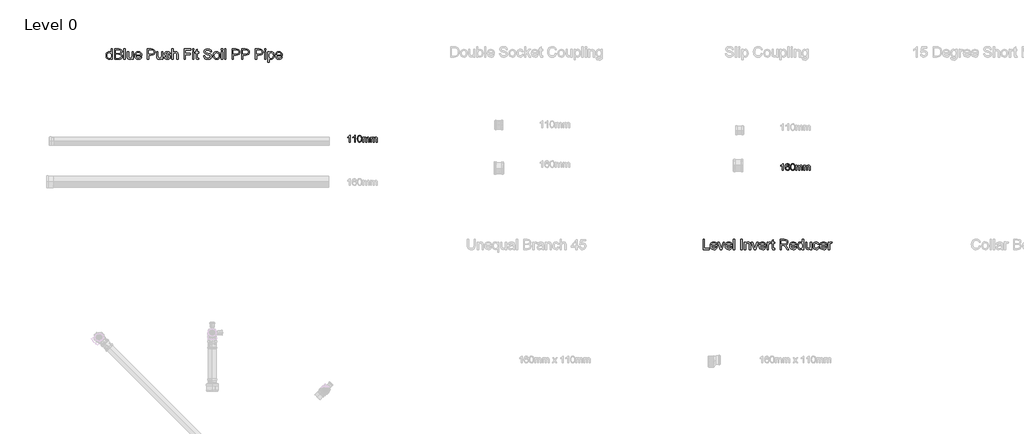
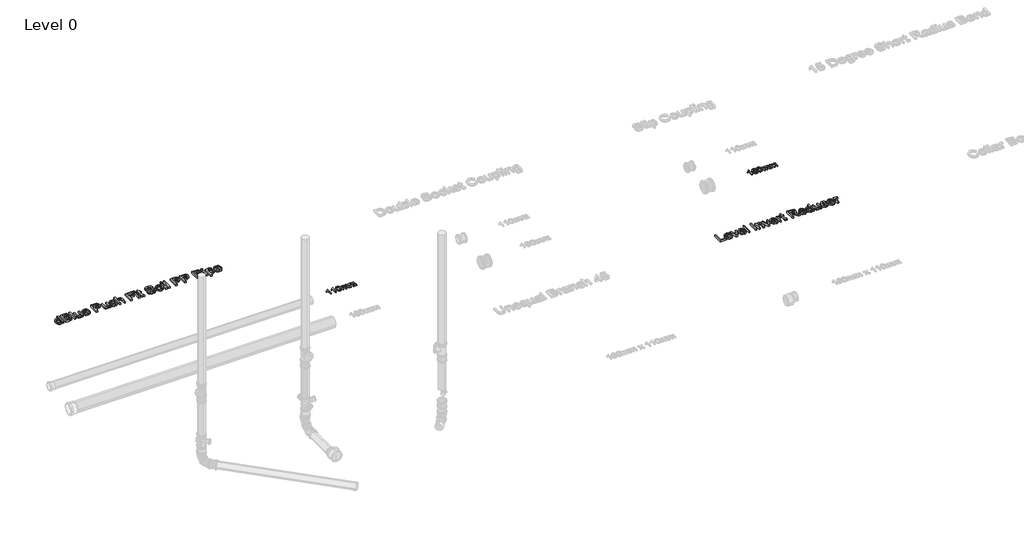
# One storey, part 5 of 15: 4 proxies.
"""IFC4 building model written with IfcOpenShell, lengths in millimetres."""

import ifcopenshell
import ifcopenshell.guid

model = None  # the IFC model being written
_history = None  # IfcOwnerHistory: only IFC2X3 demands one
_inside = {}  # id of a spatial element -> (the spatial element, [elements in it])
_under = {}  # id of a project, library or spatial element -> (it, [spatial elements below it])
_declared = {}  # id of a project -> (the project, [libraries it declares])
_typed = {}  # id of a type object -> (the type object, [elements of that type])
_made_of = {}  # id of a material, layer set ... -> (it, [elements and type objects made of it])


def new_model(schema):
    """Start an empty IFC model of exactly this schema.

    Asked for "IFC4X3", IfcOpenShell would pick the latest addendum, in which some entities
    have other attributes; the version numbers below select the first issue.
    IFC2X3 requires an IfcOwnerHistory on every rooted entity: one is made here for all.
    """
    global model, _history
    if schema == "IFC4X3":
        model = ifcopenshell.file(schema_version=(4, 3, 0, 0))
    else:
        model = ifcopenshell.file(schema=schema)
    _inside.clear()
    _under.clear()
    _declared.clear()
    _typed.clear()
    _made_of.clear()
    _history = None
    if model.schema == "IFC2X3":
        org = make("IfcOrganization", Name="unknown")
        user = make(
            "IfcPersonAndOrganization",
            ThePerson=make("IfcPerson", FamilyName="unknown"),
            TheOrganization=org,
        )
        app = make(
            "IfcApplication",
            ApplicationDeveloper=org,
            Version="unknown",
            ApplicationFullName="unknown",
            ApplicationIdentifier="unknown",
        )
        _history = make(
            "IfcOwnerHistory",
            OwningUser=user,
            OwningApplication=app,
            ChangeAction="ADDED",
            CreationDate=0,
        )
    return model


def make(cls, **values):
    """One entity of the class cls with the attributes given. An attribute that is None is left unset."""
    return model.create_entity(
        cls, **{name: value for name, value in values.items() if value is not None}
    )


def rooted(cls, **values):
    """An entity with a GlobalId (a new one), such as an element, a storey or a relation."""
    return make(cls, GlobalId=ifcopenshell.guid.new(), OwnerHistory=_history, **values)


def si_unit(unit_type, name, prefix=None):
    """IfcSIUnit, for example si_unit("LENGTHUNIT", "METRE", prefix="MILLI")."""
    return make("IfcSIUnit", UnitType=unit_type, Prefix=prefix, Name=name)


def assignment(units):
    """IfcUnitAssignment: the units of a project."""
    return None if units is None else make("IfcUnitAssignment", Units=units)


def point(xyz):
    """IfcCartesianPoint."""
    return None if xyz is None else make("IfcCartesianPoint", Coordinates=xyz)


def direction(xyz):
    """IfcDirection."""
    return None if xyz is None else make("IfcDirection", DirectionRatios=xyz)


def frame(location, z_axis=None, x_axis=None):
    """IfcAxis2Placement3D, a coordinate frame: its origin and axes. An axis left out is left unset."""
    return make(
        "IfcAxis2Placement3D",
        Location=point(location),
        Axis=direction(z_axis),
        RefDirection=direction(x_axis),
    )


def origin():
    """The frame at (0, 0, 0) with its axes left unset."""
    return frame((0.0, 0.0, 0.0))


def origin_with_axes():
    """The frame at (0, 0, 0) with the z axis (0, 0, 1) and the x axis (1, 0, 0) written out."""
    return frame((0.0, 0.0, 0.0), z_axis=(0.0, 0.0, 1.0), x_axis=(1.0, 0.0, 0.0))


def place(relative_to, where):
    """IfcLocalPlacement: puts the frame where relative to a parent placement (None: the world)."""
    return make(
        "IfcLocalPlacement", PlacementRelTo=relative_to, RelativePlacement=where
    )


def context(
    kind, dimensions, precision=None, world=None, true_north=None, identifier=None
):
    """IfcGeometricRepresentationContext, for example the 3D "Model" context."""
    return make(
        "IfcGeometricRepresentationContext",
        ContextIdentifier=identifier,
        ContextType=kind,
        CoordinateSpaceDimension=dimensions,
        Precision=precision,
        WorldCoordinateSystem=world,
        TrueNorth=true_north,
    )


def project(units=None, contexts=None):
    """IfcProject with its units and contexts."""
    return rooted(
        "IfcProject",
        Name="project",
        RepresentationContexts=contexts,
        UnitsInContext=assignment(units),
    )


def spatial(cls, under=None, at=None, **own):
    """A site, building, storey or space (cls), placed at a placement, below another one or the project."""
    s = rooted(cls, ObjectPlacement=at, **own)
    if under is not None:
        _under.setdefault(under.id(), (under, []))[1].append(s)
    return s


def polyline(points):
    """IfcPolyline through the points."""
    return make("IfcPolyline", Points=[point(p) for p in points])


def outline(outer, holes=None, kind="AREA"):
    """IfcArbitraryClosedProfileDef: a profile drawn as a closed curve; with holes, ...WithVoids."""
    if holes is None:
        return make("IfcArbitraryClosedProfileDef", ProfileType=kind, OuterCurve=outer)
    return make(
        "IfcArbitraryProfileDefWithVoids",
        ProfileType=kind,
        OuterCurve=outer,
        InnerCurves=holes,
    )


def extrude(swept, where, along, depth):
    """IfcExtrudedAreaSolid: the profile swept, set in the frame where, extruded along a direction by depth."""
    return make(
        "IfcExtrudedAreaSolid",
        SweptArea=swept,
        Position=where,
        ExtrudedDirection=direction(along),
        Depth=depth,
    )


def shape(context_of_items, identifier, shape_type, items):
    """IfcShapeRepresentation: the items that make up one representation, for example the "Body"."""
    return make(
        "IfcShapeRepresentation",
        ContextOfItems=context_of_items,
        RepresentationIdentifier=identifier,
        RepresentationType=shape_type,
        Items=items,
    )


def made_of(thing, what):
    """Note that an element or type object is made of a material, layer set ...; save() writes the relation."""
    if what is not None:
        _made_of.setdefault(what.id(), (what, []))[1].append(thing)
    return thing


def element(
    cls,
    number,
    at=None,
    inside=None,
    cuts=None,
    type_object=None,
    material=None,
    context=None,
    identifier="Body",
    shape_type=None,
    held_by="IfcProductDefinitionShape",
    body=None,
    shapes=None,
    **own,
):
    """One element of the class cls, such as IfcWall. Its Tag is "e" and its number.

    at: its placement. inside: the storey or other place that contains it. cuts: it is an
    opening in that element (IfcRelVoidsElement). A single representation is given by context,
    identifier, shape_type and body (its items); several are given by shapes. held_by: the class
    of the entity that holds the representations. save() writes the other relations.
    """
    e = rooted(cls, Tag="e%d" % number, ObjectPlacement=at, **own)
    if body is not None:
        shapes = [shape(context, identifier, shape_type, body)]
    if shapes is not None:
        e.Representation = make(held_by, Representations=shapes)
    if inside is not None:
        _inside.setdefault(inside.id(), (inside, []))[1].append(e)
    if cuts is not None:
        rooted(
            "IfcRelVoidsElement", RelatingBuildingElement=cuts, RelatedOpeningElement=e
        )
    if type_object is not None:
        _typed.setdefault(type_object.id(), (type_object, []))[1].append(e)
    return made_of(e, material)


def aggregate(whole, parts):
    """IfcRelAggregates: a whole, such as a stair, and the parts it consists of."""
    return rooted("IfcRelAggregates", RelatingObject=whole, RelatedObjects=parts)


def save(model, path):
    """Write the relations noted so far, then the file.

    IfcRelAggregates (storeys below a building ...), IfcRelContainedInSpatialStructure (elements
    in a storey), IfcRelDefinesByType, IfcRelAssociatesMaterial and IfcRelDeclares: one each for
    every whole, place, type object, material and project.
    """
    for whole, parts in _under.values():
        aggregate(whole, parts)
    for where, things in _inside.values():
        rooted(
            "IfcRelContainedInSpatialStructure",
            RelatedElements=things,
            RelatingStructure=where,
        )
    for kind, things in _typed.values():
        rooted("IfcRelDefinesByType", RelatedObjects=things, RelatingType=kind)
    for what, things in _made_of.values():
        rooted("IfcRelAssociatesMaterial", RelatedObjects=things, RelatingMaterial=what)
    for by, libraries in _declared.values():
        rooted("IfcRelDeclares", RelatingContext=by, RelatedDefinitions=libraries)
    model.write(path)


model = new_model("IFC4")

# Units and contexts
model_context = context("Model", 3, world=origin())
ifc_project = project(units=[si_unit("LENGTHUNIT", "METRE", prefix="MILLI")], contexts=[model_context])

# Site, building, storey
site = spatial("IfcSite", under=ifc_project)
building = spatial("IfcBuilding", under=site)
storey = spatial("IfcBuildingStorey", under=building, Name="Level 0", Elevation=0.0)

# Proxies
placement = place(None, origin())
element("IfcBuildingElementProxy", 1, Name="100mm Arial", ObjectType="100mm Arial", at=placement, inside=storey, context=model_context, shape_type="SweptSolid", body=[
    extrude(outline(polyline([(-23591.7293188, 8067.8368131), (-23604.0370111, 8067.8368131), (-23604.0370111, 8144.5675823), (-23615.6956649, 8136.2622939), (-23628.6523957, 8130.0483515), (-23628.6523957, 8141.6829669), (-23610.6115303, 8153.19739), (-23599.6620111, 8166.2983515), (-23591.7293188, 8166.2983515), (-23591.7293188, 8067.8368131)])), origin_with_axes(), (0.0, 0.0, 1.0), 15.0),
    extrude(outline(polyline([(-23516.3447034, 8067.8368131), (-23528.6523957, 8067.8368131), (-23528.6523957, 8144.5675823), (-23540.3110495, 8136.2622939), (-23553.2677803, 8130.0483515), (-23553.2677803, 8141.6829669), (-23535.2269149, 8153.19739), (-23524.2773957, 8166.2983515), (-23516.3447034, 8166.2983515), (-23516.3447034, 8067.8368131)])), origin_with_axes(), (0.0, 0.0, 1.0), 15.0),
    extrude(outline(polyline([(-23487.1139341, 8116.2743131), (-23483.4961457, 8144.60364), (-23472.7509534, 8160.9377746), (-23454.8062418, 8166.2983515), (-23440.4312418, 8163.1252746), (-23430.5033572, 8153.97864), (-23424.7341264, 8139.4113323), (-23422.4985495, 8116.2743131), (-23426.0802803, 8088.0651785), (-23436.7894149, 8071.6949862), (-23454.8062418, 8066.2983515), (-23467.5947034, 8068.6421015), (-23477.3062418, 8075.6733515), (-23484.6620111, 8092.3259958), (-23487.1139341, 8116.2743131)]), holes=[polyline([(-23474.8062418, 8116.2983515), (-23473.3639341, 8096.9383756), (-23469.0370111, 8085.7334477), (-23462.5947034, 8080.3878948), (-23454.8062418, 8078.6060439), (-23447.0177803, 8080.3939044), (-23440.5754726, 8085.7574862), (-23436.2485495, 8096.9684237), (-23434.8062418, 8116.2983515), (-23436.2004726, 8135.2226304), (-23440.3831649, 8146.5146977), (-23446.8134534, 8152.1216689), (-23454.9504726, 8153.9906592), (-23462.6547995, 8152.3440246), (-23468.8447034, 8147.4041208), (-23473.3158572, 8135.4089285), (-23474.8062418, 8116.2983515)])]), origin_with_axes(), (0.0, 0.0, 1.0), 15.0),
    extrude(outline(polyline([(-23408.6523957, 8067.8368131), (-23408.6523957, 8140.1445054), (-23396.3447034, 8140.1445054), (-23396.3447034, 8128.2454669), (-23387.8831649, 8137.9930631), (-23375.8398957, 8141.6829669), (-23363.5081649, 8137.9209477), (-23356.7293188, 8127.3800823), (-23347.1259534, 8138.1072458), (-23334.9985495, 8141.6829669), (-23325.7467466, 8140.1955871), (-23318.9047995, 8135.7334477), (-23314.6770351, 8128.1763564), (-23313.2677803, 8117.4041208), (-23313.2677803, 8067.8368131), (-23325.5754726, 8067.8368131), (-23325.5754726, 8112.1156592), (-23326.7172995, 8122.3921015), (-23330.8519149, 8127.4521977), (-23337.8831649, 8129.3752746), (-23349.9865303, 8124.44739), (-23354.8062418, 8108.6541208), (-23354.8062418, 8067.8368131), (-23367.1139341, 8067.8368131), (-23367.1139341, 8113.4858515), (-23369.9624918, 8125.4089285), (-23379.3014341, 8129.3752746), (-23388.4120111, 8126.7310439), (-23394.4697034, 8118.9906592), (-23396.3447034, 8104.3031592), (-23396.3447034, 8067.8368131), (-23408.6523957, 8067.8368131)])), origin_with_axes(), (0.0, 0.0, 1.0), 15.0),
    extrude(outline(polyline([(-23294.8062418, 8067.8368131), (-23294.8062418, 8140.1445054), (-23282.4985495, 8140.1445054), (-23282.4985495, 8128.2454669), (-23274.0370111, 8137.9930631), (-23261.9937418, 8141.6829669), (-23249.6620111, 8137.9209477), (-23242.8831649, 8127.3800823), (-23233.2797995, 8138.1072458), (-23221.1523957, 8141.6829669), (-23211.9005928, 8140.1955871), (-23205.0586457, 8135.7334477), (-23200.8308813, 8128.1763564), (-23199.4216264, 8117.4041208), (-23199.4216264, 8067.8368131), (-23211.7293188, 8067.8368131), (-23211.7293188, 8112.1156592), (-23212.8711457, 8122.3921015), (-23217.0057611, 8127.4521977), (-23224.0370111, 8129.3752746), (-23236.1403764, 8124.44739), (-23240.960088, 8108.6541208), (-23240.960088, 8067.8368131), (-23253.2677803, 8067.8368131), (-23253.2677803, 8113.4858515), (-23256.116338, 8125.4089285), (-23265.4552803, 8129.3752746), (-23274.5658572, 8126.7310439), (-23280.6235495, 8118.9906592), (-23282.4985495, 8104.3031592), (-23282.4985495, 8067.8368131), (-23294.8062418, 8067.8368131)])), origin_with_axes(), (0.0, 0.0, 1.0), 15.0),
])
element("IfcBuildingElementProxy", 2, Name="100mm Arial", ObjectType="100mm Arial", at=placement, inside=storey, context=model_context, shape_type="SweptSolid", body=[
    extrude(outline(polyline([(-17291.7293188, 7657.7167304), (-17304.0370111, 7657.7167304), (-17304.0370111, 7734.4474996), (-17315.6956649, 7726.1422111), (-17328.6523957, 7719.9282688), (-17328.6523957, 7731.5628842), (-17310.6115303, 7743.0773073), (-17299.6620111, 7756.1782688), (-17291.7293188, 7756.1782688), (-17291.7293188, 7657.7167304)])), origin_with_axes(), (0.0, 0.0, 1.0), 15.0),
    extrude(outline(polyline([(-17199.4216264, 7730.0244227), (-17211.7293188, 7728.4859611), (-17216.3927803, 7738.7503842), (-17228.7245111, 7743.8705765), (-17239.8302803, 7740.8898073), (-17248.2317226, 7729.6999035), (-17251.7293188, 7707.7648073), (-17240.8759534, 7717.5845188), (-17227.4264341, 7720.7936535), (-17216.0562418, 7718.6001438), (-17206.5129726, 7712.019615), (-17200.0406168, 7701.9655285), (-17197.8831649, 7689.3513458), (-17201.9456649, 7672.3681727), (-17213.1235495, 7660.3489419), (-17229.2533572, 7656.1782688), (-17243.2166986, 7658.9426919), (-17254.3374918, 7667.2359611), (-17261.6121313, 7681.8753842), (-17264.0370111, 7703.6782688), (-17261.3447034, 7728.19149), (-17253.2677803, 7744.9523073), (-17242.2401361, 7753.3717785), (-17227.9552803, 7756.1782688), (-17217.1560014, 7754.44149), (-17208.5081649, 7749.2311535), (-17202.4504726, 7740.9559131), (-17199.4216264, 7730.0244227)]), holes=[polyline([(-17251.7293188, 7689.5436535), (-17248.8807611, 7678.8825958), (-17241.3086457, 7671.1422111), (-17230.2148957, 7668.4859611), (-17222.0929005, 7669.8621631), (-17215.7076841, 7673.9907688), (-17211.5700639, 7680.4811535), (-17210.1908572, 7688.9426919), (-17211.5520351, 7697.0646871), (-17215.6355688, 7703.2575958), (-17230.7197034, 7708.4859611), (-17245.6115303, 7703.2575958), (-17250.1998716, 7697.2149275), (-17251.7293188, 7689.5436535)])]), origin_with_axes(), (0.0, 0.0, 1.0), 15.0),
    extrude(outline(polyline([(-17187.1139341, 7706.1542304), (-17183.4961457, 7734.4835573), (-17172.7509534, 7750.8176919), (-17154.8062418, 7756.1782688), (-17140.4312418, 7753.0051919), (-17130.5033572, 7743.8585573), (-17124.7341264, 7729.2912496), (-17122.4985495, 7706.1542304), (-17126.0802803, 7677.9450958), (-17136.7894149, 7661.5749035), (-17154.8062418, 7656.1782688), (-17167.5947034, 7658.5220188), (-17177.3062418, 7665.5532688), (-17184.6620111, 7682.2059131), (-17187.1139341, 7706.1542304)]), holes=[polyline([(-17174.8062418, 7706.1782688), (-17173.3639341, 7686.8182929), (-17169.0370111, 7675.613365), (-17162.5947034, 7670.2678121), (-17154.8062418, 7668.4859611), (-17147.0177803, 7670.2738217), (-17140.5754726, 7675.6374035), (-17136.2485495, 7686.848341), (-17134.8062418, 7706.1782688), (-17136.2004726, 7725.1025477), (-17140.3831649, 7736.394615), (-17146.8134534, 7742.0015861), (-17154.9504726, 7743.8705765), (-17162.6547995, 7742.2239419), (-17168.8447034, 7737.2840381), (-17173.3158572, 7725.2888458), (-17174.8062418, 7706.1782688)])]), origin_with_axes(), (0.0, 0.0, 1.0), 15.0),
    extrude(outline(polyline([(-17108.6523957, 7657.7167304), (-17108.6523957, 7730.0244227), (-17096.3447034, 7730.0244227), (-17096.3447034, 7718.1253842), (-17087.8831649, 7727.8729804), (-17075.8398957, 7731.5628842), (-17063.5081649, 7727.800865), (-17056.7293188, 7717.2599996), (-17047.1259534, 7727.9871631), (-17034.9985495, 7731.5628842), (-17025.7467466, 7730.0755044), (-17018.9047995, 7725.613365), (-17014.6770351, 7718.0562736), (-17013.2677803, 7707.2840381), (-17013.2677803, 7657.7167304), (-17025.5754726, 7657.7167304), (-17025.5754726, 7701.9955765), (-17026.7172995, 7712.2720188), (-17030.8519149, 7717.332115), (-17037.8831649, 7719.2551919), (-17049.9865303, 7714.3273073), (-17054.8062418, 7698.5340381), (-17054.8062418, 7657.7167304), (-17067.1139341, 7657.7167304), (-17067.1139341, 7703.3657688), (-17069.9624918, 7715.2888458), (-17079.3014341, 7719.2551919), (-17088.4120111, 7716.6109611), (-17094.4697034, 7708.8705765), (-17096.3447034, 7694.1830765), (-17096.3447034, 7657.7167304), (-17108.6523957, 7657.7167304)])), origin_with_axes(), (0.0, 0.0, 1.0), 15.0),
    extrude(outline(polyline([(-16994.8062418, 7657.7167304), (-16994.8062418, 7730.0244227), (-16982.4985495, 7730.0244227), (-16982.4985495, 7718.1253842), (-16974.0370111, 7727.8729804), (-16961.9937418, 7731.5628842), (-16949.6620111, 7727.800865), (-16942.8831649, 7717.2599996), (-16933.2797995, 7727.9871631), (-16921.1523957, 7731.5628842), (-16911.9005928, 7730.0755044), (-16905.0586457, 7725.613365), (-16900.8308813, 7718.0562736), (-16899.4216264, 7707.2840381), (-16899.4216264, 7657.7167304), (-16911.7293188, 7657.7167304), (-16911.7293188, 7701.9955765), (-16912.8711457, 7712.2720188), (-16917.0057611, 7717.332115), (-16924.0370111, 7719.2551919), (-16936.1403764, 7714.3273073), (-16940.960088, 7698.5340381), (-16940.960088, 7657.7167304), (-16953.2677803, 7657.7167304), (-16953.2677803, 7703.3657688), (-16956.116338, 7715.2888458), (-16965.4552803, 7719.2551919), (-16974.5658572, 7716.6109611), (-16980.6235495, 7708.8705765), (-16982.4985495, 7694.1830765), (-16982.4985495, 7657.7167304), (-16994.8062418, 7657.7167304)])), origin_with_axes(), (0.0, 0.0, 1.0), 15.0),
])
element("IfcBuildingElementProxy", 3, Name="150mm Arial", ObjectType="150mm Arial", at=placement, inside=storey, context=model_context, shape_type="SweptSolid", body=[
    extrude(outline(polyline([(-27068.6641509, 9272.4182401), (-27068.6641509, 9290.1869405), (-27081.1261535, 9275.0945817), (-27098.3522279, 9270.0637954), (-27110.529122, 9271.8848113), (-27121.6759464, 9277.3478589), (-27131.1121196, 9286.0712607), (-27138.1570598, 9297.6733391), (-27142.5440526, 9311.6850446), (-27144.0063836, 9327.6373276), (-27138.6169123, 9357.6197102), (-27131.8846718, 9369.5114957), (-27122.4668927, 9378.2578902), (-27111.0763465, 9383.6381643), (-27098.4258043, 9385.4315891), (-27081.0617742, 9380.2996352), (-27068.6641509, 9366.9639129), (-27068.6641509, 9423.1027054), (-27049.8285928, 9423.1027054), (-27049.8285928, 9272.4182401), (-27068.6641509, 9272.4182401)]), holes=[polyline([(-27125.1708254, 9327.710904), (-27123.0463069, 9310.6733691), (-27116.6727513, 9298.5562559), (-27107.4113221, 9291.3135791), (-27096.6231826, 9288.8993535), (-27085.8396416, 9291.2032145), (-27076.8127371, 9298.1147975), (-27070.7012975, 9309.7628612), (-27068.6641509, 9326.2761642), (-27070.7380857, 9344.3299732), (-27076.9598899, 9356.847158), (-27086.2167206, 9364.1588127), (-27097.3957348, 9366.5960309), (-27108.2942389, 9364.2553817), (-27117.2245743, 9357.2334341), (-27123.1842626, 9345.1715032), (-27125.1708254, 9327.710904)])]), origin_with_axes(), (0.0, 0.0, 1.0), 25.0),
    extrude(outline(polyline([(-27019.2208108, 9272.4182401), (-27019.2208108, 9423.1027054), (-26961.7208549, 9423.1027054), (-26933.5594882, 9418.6697273), (-26924.0957239, 9413.0457313), (-26916.931222, 9405.0396994), (-26910.9163514, 9385.7626829), (-26915.9747288, 9368.1595294), (-26931.2602257, 9354.8238071), (-26920.5870494, 9349.2503948), (-26912.7005791, 9340.7707149), (-26907.8307412, 9329.9457871), (-26906.2074619, 9317.3366318), (-26910.6404399, 9297.0847279), (-26921.6217175, 9282.6637537), (-26938.0108604, 9275.0118082), (-26962.1623133, 9272.4182401), (-27019.2208108, 9272.4182401)]), holes=[polyline([(-27000.3852526, 9361.8871414), (-26965.9882861, 9361.8871414), (-26945.9019291, 9363.5058222), (-26933.8170056, 9370.477186), (-26929.7519096, 9382.7460505), (-26933.5410941, 9395.0333091), (-26944.393613, 9402.2989785), (-26968.6002483, 9404.2671472), (-27000.3852526, 9404.2671472), (-27000.3852526, 9361.8871414)]), polyline([(-27000.3852526, 9291.2537983), (-26961.7576431, 9291.2537983), (-26947.7781273, 9291.9895623), (-26935.9507212, 9296.0914465), (-26928.1148347, 9304.4607619), (-26925.04302, 9317.1526908), (-26928.6482636, 9331.7943942), (-26940.3285169, 9340.5315916), (-26963.5970531, 9343.0515832), (-27000.3852526, 9343.0515832), (-27000.3852526, 9291.2537983)])]), origin_with_axes(), (0.0, 0.0, 1.0), 25.0),
    extrude(outline(polyline([(-26882.6630142, 9272.4182401), (-26882.6630142, 9423.1027054), (-26863.827456, 9423.1027054), (-26863.827456, 9272.4182401), (-26882.6630142, 9272.4182401)])), origin_with_axes(), (0.0, 0.0, 1.0), 25.0),
    extrude(outline(polyline([(-26764.9407757, 9272.4182401), (-26764.9407757, 9291.4377393), (-26779.6928437, 9275.4072814), (-26798.9330721, 9270.0637954), (-26816.6465901, 9273.8161917), (-26828.8602724, 9283.2339708), (-26834.4704728, 9297.103122), (-26835.5741188, 9314.614305), (-26835.5741188, 9383.0771443), (-26816.7385606, 9383.0771443), (-26816.7385606, 9323.4802611), (-26815.5981265, 9304.2768209), (-26808.1485161, 9293.0012378), (-26794.1138179, 9288.8993535), (-26778.3868626, 9293.0932083), (-26767.9941963, 9304.5159442), (-26764.9407757, 9325.5036121), (-26764.9407757, 9383.0771443), (-26746.1052176, 9383.0771443), (-26746.1052176, 9272.4182401), (-26764.9407757, 9272.4182401)])), origin_with_axes(), (0.0, 0.0, 1.0), 25.0),
    extrude(outline(polyline([(-26642.7303769, 9305.3804669), (-26624.2627008, 9303.0260221), (-26630.9167664, 9289.1108857), (-26641.5347604, 9278.7090223), (-26655.8775597, 9272.2251021), (-26673.7060409, 9270.0637954), (-26695.8065518, 9273.7931991), (-26712.811897, 9284.9814103), (-26723.6552188, 9302.901862), (-26727.2696594, 9326.8279872), (-26723.6184306, 9351.5588544), (-26712.6647442, 9370.0541217), (-26695.8893252, 9381.5872222), (-26674.7728987, 9385.4315891), (-26654.3140612, 9381.5964193), (-26637.9663051, 9370.0909099), (-26627.2471435, 9351.6324308), (-26623.6740896, 9326.9383518), (-26623.7844542, 9321.8615803), (-26708.4341013, 9321.8615803), (-26705.1737471, 9307.7625028), (-26697.5999765, 9297.3974276), (-26686.6692827, 9291.0238721), (-26673.3381589, 9288.8993535), (-26654.8704828, 9292.8356909), (-26642.7303769, 9305.3804669)]), holes=[polyline([(-26708.4341013, 9340.6971385), (-26642.5096477, 9340.6971385), (-26645.0572305, 9350.6483464), (-26650.0512286, 9357.766863), (-26661.0325062, 9364.3887389), (-26674.8464751, 9366.5960309), (-26687.5430025, 9364.8347959), (-26698.0414349, 9359.5510907), (-26705.339294, 9351.3151325), (-26708.4341013, 9340.6971385)])]), origin_with_axes(), (0.0, 0.0, 1.0), 25.0),
    extrude(outline(polyline([(-26543.6229674, 9272.4182401), (-26543.6229674, 9423.1027054), (-26487.7784806, 9423.1027054), (-26465.2641025, 9421.6679656), (-26446.9619732, 9414.6230254), (-26435.0977788, 9400.0548984), (-26430.6096185, 9379.5086889), (-26433.6400464, 9361.7491856), (-26442.7313302, 9346.9511324), (-26459.7320769, 9336.9631362), (-26486.4908936, 9333.6338041), (-26524.7874093, 9333.6338041), (-26524.7874093, 9272.4182401), (-26543.6229674, 9272.4182401)]), holes=[polyline([(-26524.7874093, 9352.4693623), (-26485.3872476, 9352.4693623), (-26468.685405, 9354.1984077), (-26457.6489451, 9359.3855438), (-26451.4961188, 9367.7088739), (-26449.4451767, 9378.8465014), (-26454.2828249, 9394.4446979), (-26466.9931478, 9402.9795602), (-26485.828706, 9404.2671472), (-26524.7874093, 9404.2671472), (-26524.7874093, 9352.4693623)])]), origin_with_axes(), (0.0, 0.0, 1.0), 25.0),
    extrude(outline(polyline([(-26336.4318277, 9272.4182401), (-26336.4318277, 9291.4377393), (-26351.1838957, 9275.4072814), (-26370.4241241, 9270.0637954), (-26388.1376422, 9273.8161917), (-26400.3513244, 9283.2339708), (-26405.9615248, 9297.103122), (-26407.0651708, 9314.614305), (-26407.0651708, 9383.0771443), (-26388.2296127, 9383.0771443), (-26388.2296127, 9323.4802611), (-26387.0891785, 9304.2768209), (-26379.6395681, 9293.0012378), (-26365.60487, 9288.8993535), (-26349.8779147, 9293.0932083), (-26339.4852483, 9304.5159442), (-26336.4318277, 9325.5036121), (-26336.4318277, 9383.0771443), (-26317.5962696, 9383.0771443), (-26317.5962696, 9272.4182401), (-26336.4318277, 9272.4182401)])), origin_with_axes(), (0.0, 0.0, 1.0), 25.0),
    extrude(outline(polyline([(-26298.7607114, 9305.3804669), (-26279.9251533, 9307.7349117), (-26276.9545062, 9299.678296), (-26271.20635, 9293.7553959), (-26251.2303577, 9288.8993535), (-26232.0269175, 9293.3507257), (-26225.7729236, 9303.7985743), (-26227.3456191, 9308.5994344), (-26232.0637057, 9312.2598602), (-26251.4510869, 9317.6309374), (-26279.8147887, 9326.8463813), (-26292.1940178, 9337.6069297), (-26296.4062667, 9352.8004561), (-26293.0217523, 9366.8351542), (-26283.7879142, 9377.5589144), (-26271.8133553, 9383.1323266), (-26255.6081534, 9385.4315891), (-26232.6891051, 9381.734375), (-26218.1209781, 9371.7279847), (-26211.646255, 9354.8238071), (-26230.4818131, 9352.4693623), (-26237.5635415, 9362.8620287), (-26254.1366254, 9366.5960309), (-26272.1628432, 9363.0275756), (-26277.5707085, 9354.7134425), (-26275.3266283, 9349.2320007), (-26268.3000822, 9345.0749342), (-26252.0764862, 9341.0650204), (-26224.4301543, 9332.1990644), (-26211.5910727, 9322.1558859), (-26206.9373654, 9305.7851371), (-26212.4004131, 9287.7589193), (-26228.1641566, 9274.6807144), (-26251.4878751, 9270.0637954), (-26270.4797831, 9272.2894814), (-26284.3397372, 9278.9665397), (-26293.5919694, 9290.0213936), (-26298.7607114, 9305.3804669)])), origin_with_axes(), (0.0, 0.0, 1.0), 25.0),
    extrude(outline(polyline([(-26185.7473625, 9272.4182401), (-26185.7473625, 9423.1027054), (-26166.9118044, 9423.1027054), (-26166.9118044, 9367.6996769), (-26152.2241157, 9380.998611), (-26134.1335186, 9385.4315891), (-26112.9803039, 9380.5939408), (-26100.1412222, 9367.2214303), (-26096.2784613, 9342.462972), (-26096.2784613, 9272.4182401), (-26115.1140194, 9272.4182401), (-26115.1140194, 9340.5131975), (-26116.6131386, 9352.3038154), (-26121.110496, 9360.3788252), (-26128.3577713, 9365.0417295), (-26138.1066441, 9366.5960309), (-26153.5392938, 9362.4021762), (-26163.8399897, 9351.0346225), (-26166.9118044, 9331.205783), (-26166.9118044, 9272.4182401), (-26185.7473625, 9272.4182401)])), origin_with_axes(), (0.0, 0.0, 1.0), 25.0),
    extrude(outline(polyline([(-26009.1640048, 9272.4182401), (-26009.1640048, 9423.1027054), (-25907.9228798, 9423.1027054), (-25907.9228798, 9404.2671472), (-25990.3284467, 9404.2671472), (-25990.3284467, 9359.5326966), (-25919.6951036, 9359.5326966), (-25919.6951036, 9340.6971385), (-25990.3284467, 9340.6971385), (-25990.3284467, 9272.4182401), (-26009.1640048, 9272.4182401)])), origin_with_axes(), (0.0, 0.0, 1.0), 25.0),
    extrude(outline(polyline([(-25884.3784321, 9404.2671472), (-25884.3784321, 9423.1027054), (-25865.5428739, 9423.1027054), (-25865.5428739, 9404.2671472), (-25884.3784321, 9404.2671472)])), origin_with_axes(), (0.0, 0.0, 1.0), 25.0),
    extrude(outline(polyline([(-25884.3784321, 9272.4182401), (-25884.3784321, 9383.0771443), (-25865.5428739, 9383.0771443), (-25865.5428739, 9272.4182401), (-25884.3784321, 9272.4182401)])), origin_with_axes(), (0.0, 0.0, 1.0), 25.0),
    extrude(outline(polyline([(-25797.2639756, 9288.1268013), (-25794.9095308, 9271.8664172), (-25808.9994113, 9270.0637954), (-25824.7815488, 9273.1907923), (-25832.6542235, 9281.3945608), (-25834.9350919, 9302.7685047), (-25834.9350919, 9364.2415861), (-25849.0617605, 9364.2415861), (-25849.0617605, 9383.0771443), (-25834.9350919, 9383.0771443), (-25834.9350919, 9409.9693181), (-25816.0995338, 9421.0425662), (-25816.0995338, 9383.0771443), (-25797.2639756, 9383.0771443), (-25797.2639756, 9364.2415861), (-25816.0995338, 9364.2415861), (-25816.0995338, 9303.3203277), (-25815.1062524, 9293.6082431), (-25811.8872849, 9290.1685464), (-25805.4677441, 9288.8993535), (-25797.2639756, 9288.1268013)])), origin_with_axes(), (0.0, 0.0, 1.0), 25.0),
    extrude(outline(polyline([(-25724.2761878, 9324.2160251), (-25705.4406296, 9324.2160251), (-25699.3705767, 9305.3620728), (-25684.5449323, 9293.4426962), (-25661.9569778, 9288.8993535), (-25642.275291, 9292.3390502), (-25629.5649681, 9301.7936175), (-25625.3895075, 9314.430364), (-25628.5165044, 9326.1841937), (-25641.3187979, 9334.7374501), (-25668.7444006, 9341.9295431), (-25698.2669307, 9351.2185635), (-25714.2881916, 9365.2348675), (-25719.5672982, 9383.9600611), (-25717.9348219, 9394.9919224), (-25713.0373928, 9405.2788227), (-25705.0037697, 9413.997626), (-25693.9627114, 9420.3251963), (-25666.0404679, 9425.4571501), (-25636.2420263, 9420.086073), (-25624.8192904, 9413.455), (-25616.3763986, 9404.3039354), (-25611.0329126, 9393.2030962), (-25608.9083941, 9380.7226995), (-25627.7439522, 9380.7226995), (-25631.202043, 9391.9614945), (-25638.4125301, 9400.0732925), (-25649.6789162, 9404.9845171), (-25665.3047039, 9406.621592), (-25681.2983737, 9405.0029112), (-25692.2704542, 9400.1468689), (-25698.6164186, 9393.0007611), (-25700.7317401, 9384.5118841), (-25699.2326209, 9377.2738058), (-25694.7352636, 9371.4520732), (-25663.9803288, 9360.9306482), (-25630.65022, 9351.4760809), (-25619.9126643, 9344.6426728), (-25612.4216671, 9336.2089781), (-25608.0208788, 9326.2669672), (-25606.5539493, 9314.9086106), (-25608.241608, 9303.2973351), (-25613.3045839, 9292.3758384), (-25621.5359436, 9282.9764534), (-25632.7287533, 9275.9315132), (-25646.1886358, 9271.5307248), (-25661.2212138, 9270.0637954), (-25679.6750944, 9271.645688), (-25694.8640223, 9276.3913657), (-25706.9627414, 9284.3192227), (-25716.1459957, 9295.447653), (-25722.0413046, 9309.0041046), (-25724.2761878, 9324.2160251)])), origin_with_axes(), (0.0, 0.0, 1.0), 25.0),
    extrude(outline(polyline([(-25585.3639464, 9327.7476922), (-25581.2896533, 9354.4283339), (-25569.066774, 9373.1811186), (-25553.9652181, 9382.3689715), (-25535.883818, 9385.4315891), (-25516.0963652, 9381.7021853), (-25500.291235, 9370.5139742), (-25489.9307583, 9352.7498723), (-25486.4772661, 9329.2927966), (-25488.0039764, 9310.2641004), (-25492.5841072, 9295.7787468), (-25500.0843014, 9284.9308265), (-25510.3712017, 9276.81443), (-25522.5894824, 9271.751454), (-25535.883818, 9270.0637954), (-25555.9103941, 9273.7794035), (-25571.6971303, 9284.926228), (-25581.9472424, 9303.0628103), (-25585.3639464, 9327.7476922)]), holes=[polyline([(-25566.5283882, 9327.7844804), (-25564.3486874, 9310.7377485), (-25557.8095849, 9298.5930441), (-25547.9687416, 9291.3227762), (-25535.883818, 9288.8993535), (-25523.8540768, 9291.3365717), (-25514.0316275, 9298.6482264), (-25507.4925251, 9310.9538791), (-25505.3128242, 9328.3730916), (-25507.5063206, 9344.9231829), (-25514.0868098, 9356.9023403), (-25523.9230547, 9364.1726083), (-25535.883818, 9366.5960309), (-25547.9687416, 9364.1818053), (-25557.8095849, 9356.9391285), (-25564.3486874, 9344.8220153), (-25566.5283882, 9327.7844804)])]), origin_with_axes(), (0.0, 0.0, 1.0), 25.0),
    extrude(outline(polyline([(-25465.2872632, 9272.4182401), (-25465.2872632, 9383.0771443), (-25446.451705, 9383.0771443), (-25446.451705, 9272.4182401), (-25465.2872632, 9272.4182401)])), origin_with_axes(), (0.0, 0.0, 1.0), 25.0),
    extrude(outline(polyline([(-25465.2872632, 9404.2671472), (-25465.2872632, 9423.1027054), (-25446.451705, 9423.1027054), (-25446.451705, 9404.2671472), (-25465.2872632, 9404.2671472)])), origin_with_axes(), (0.0, 0.0, 1.0), 25.0),
    extrude(outline(polyline([(-25418.1983678, 9272.4182401), (-25418.1983678, 9423.1027054), (-25399.3628096, 9423.1027054), (-25399.3628096, 9272.4182401), (-25418.1983678, 9272.4182401)])), origin_with_axes(), (0.0, 0.0, 1.0), 25.0),
    extrude(outline(polyline([(-25309.8939084, 9272.4182401), (-25309.8939084, 9423.1027054), (-25254.0494215, 9423.1027054), (-25231.5350434, 9421.6679656), (-25213.2329142, 9414.6230254), (-25201.3687198, 9400.0548984), (-25196.8805595, 9379.5086889), (-25199.9109874, 9361.7491856), (-25209.0022712, 9346.9511324), (-25226.0030179, 9336.9631362), (-25252.7618345, 9333.6338041), (-25291.0583502, 9333.6338041), (-25291.0583502, 9272.4182401), (-25309.8939084, 9272.4182401)]), holes=[polyline([(-25291.0583502, 9352.4693623), (-25251.6581886, 9352.4693623), (-25234.956346, 9354.1984077), (-25223.9198861, 9359.3855438), (-25217.7670598, 9367.7088739), (-25215.7161176, 9378.8465014), (-25220.5537659, 9394.4446979), (-25233.2640888, 9402.9795602), (-25252.099647, 9404.2671472), (-25291.0583502, 9404.2671472), (-25291.0583502, 9352.4693623)])]), origin_with_axes(), (0.0, 0.0, 1.0), 25.0),
    extrude(outline(polyline([(-25170.981667, 9272.4182401), (-25170.981667, 9423.1027054), (-25115.1371802, 9423.1027054), (-25092.622802, 9421.6679656), (-25074.3206728, 9414.6230254), (-25062.4564784, 9400.0548984), (-25057.9683181, 9379.5086889), (-25060.998746, 9361.7491856), (-25070.0900298, 9346.9511324), (-25087.0907765, 9336.9631362), (-25113.8495932, 9333.6338041), (-25152.1461089, 9333.6338041), (-25152.1461089, 9272.4182401), (-25170.981667, 9272.4182401)]), holes=[polyline([(-25152.1461089, 9352.4693623), (-25112.7459472, 9352.4693623), (-25096.0441046, 9354.1984077), (-25085.0076447, 9359.3855438), (-25078.8548184, 9367.7088739), (-25076.8038763, 9378.8465014), (-25081.6415245, 9394.4446979), (-25094.3518474, 9402.9795602), (-25113.1874056, 9404.2671472), (-25152.1461089, 9404.2671472), (-25152.1461089, 9352.4693623)])]), origin_with_axes(), (0.0, 0.0, 1.0), 25.0),
    extrude(outline(polyline([(-24973.2083064, 9272.4182401), (-24973.2083064, 9423.1027054), (-24917.3638195, 9423.1027054), (-24894.8494414, 9421.6679656), (-24876.5473122, 9414.6230254), (-24864.6831178, 9400.0548984), (-24860.1949575, 9379.5086889), (-24863.2253854, 9361.7491856), (-24872.3166692, 9346.9511324), (-24889.3174159, 9336.9631362), (-24916.0762326, 9333.6338041), (-24954.3727483, 9333.6338041), (-24954.3727483, 9272.4182401), (-24973.2083064, 9272.4182401)]), holes=[polyline([(-24954.3727483, 9352.4693623), (-24914.9725866, 9352.4693623), (-24898.270744, 9354.1984077), (-24887.2342841, 9359.3855438), (-24881.0814578, 9367.7088739), (-24879.0305156, 9378.8465014), (-24883.8681639, 9394.4446979), (-24896.5784868, 9402.9795602), (-24915.414045, 9404.2671472), (-24954.3727483, 9404.2671472), (-24954.3727483, 9352.4693623)])]), origin_with_axes(), (0.0, 0.0, 1.0), 25.0),
    extrude(outline(polyline([(-24836.6505098, 9404.2671472), (-24836.6505098, 9423.1027054), (-24817.8149516, 9423.1027054), (-24817.8149516, 9404.2671472), (-24836.6505098, 9404.2671472)])), origin_with_axes(), (0.0, 0.0, 1.0), 25.0),
    extrude(outline(polyline([(-24836.6505098, 9272.4182401), (-24836.6505098, 9383.0771443), (-24817.8149516, 9383.0771443), (-24817.8149516, 9272.4182401), (-24836.6505098, 9272.4182401)])), origin_with_axes(), (0.0, 0.0, 1.0), 25.0),
    extrude(outline(polyline([(-24789.5616144, 9230.0382343), (-24789.5616144, 9383.0771443), (-24770.7260563, 9383.0771443), (-24770.7260563, 9364.6094681), (-24757.7030336, 9380.2260588), (-24740.1182743, 9385.4315891), (-24727.3803602, 9383.6105732), (-24716.2427328, 9378.1475256), (-24707.1744416, 9369.37354), (-24700.6445362, 9357.6197102), (-24695.3838237, 9328.5938208), (-24696.8691472, 9312.4851879), (-24701.3251179, 9298.0780093), (-24708.6091814, 9286.1034504), (-24718.5787835, 9277.2926766), (-24730.1900589, 9271.8710157), (-24742.3991426, 9270.0637954), (-24758.7882855, 9274.9014436), (-24770.7260563, 9287.13352), (-24770.7260563, 9230.0382343), (-24789.5616144, 9230.0382343)]), holes=[polyline([(-24770.7260563, 9326.8647754), (-24768.6889097, 9309.9789919), (-24762.5774701, 9298.1699798), (-24753.5597627, 9291.2170101), (-24742.8038128, 9288.8993535), (-24731.8731191, 9291.2997835), (-24722.6254854, 9298.5010736), (-24716.3209077, 9310.742347), (-24714.2193818, 9328.262727), (-24716.2703239, 9345.0565401), (-24722.4231503, 9357.031099), (-24731.4270621, 9364.2047979), (-24742.0312606, 9366.5960309), (-24752.6768459, 9364.0530466), (-24762.0256471, 9356.4240937), (-24768.550954, 9343.9482956), (-24770.7260563, 9326.8647754)])]), origin_with_axes(), (0.0, 0.0, 1.0), 25.0),
    extrude(outline(polyline([(-24596.7178725, 9305.3804669), (-24578.2501964, 9303.0260221), (-24584.904262, 9289.1108857), (-24595.5222561, 9278.7090223), (-24609.8650554, 9272.2251021), (-24627.6935365, 9270.0637954), (-24649.7940474, 9273.7931991), (-24666.7993926, 9284.9814103), (-24677.6427144, 9302.901862), (-24681.257155, 9326.8279872), (-24677.6059262, 9351.5588544), (-24666.6522398, 9370.0541217), (-24649.8768209, 9381.5872222), (-24628.7603943, 9385.4315891), (-24608.3015569, 9381.5964193), (-24591.9538007, 9370.0909099), (-24581.2346391, 9351.6324308), (-24577.6615852, 9326.9383518), (-24577.7719498, 9321.8615803), (-24662.4215969, 9321.8615803), (-24659.1612427, 9307.7625028), (-24651.5874721, 9297.3974276), (-24640.6567783, 9291.0238721), (-24627.3256545, 9288.8993535), (-24608.8579784, 9292.8356909), (-24596.7178725, 9305.3804669)]), holes=[polyline([(-24662.4215969, 9340.6971385), (-24596.4971434, 9340.6971385), (-24599.0447262, 9350.6483464), (-24604.0387243, 9357.766863), (-24615.0200018, 9364.3887389), (-24628.8339707, 9366.5960309), (-24641.5304981, 9364.8347959), (-24652.0289305, 9359.5510907), (-24659.3267896, 9351.3151325), (-24662.4215969, 9340.6971385)])]), origin_with_axes(), (0.0, 0.0, 1.0), 25.0),
])
element("IfcBuildingElementProxy", 4, Name="150mm Arial", ObjectType="150mm Arial", at=placement, inside=storey, context=model_context, shape_type="SweptSolid", body=[
    extrude(outline(polyline([(-18459.0664512, 6505.2145219), (-18459.0664512, 6652.9068296), (-18440.6049127, 6652.9068296), (-18440.6049127, 6523.6760604), (-18366.7587589, 6523.6760604), (-18366.7587589, 6505.2145219), (-18459.0664512, 6505.2145219)])), origin_with_axes(), (0.0, 0.0, 1.0), 25.0),
    extrude(outline(polyline([(-18272.3597204, 6537.5222142), (-18254.2587589, 6535.2145219), (-18260.780694, 6521.5756998), (-18271.1878454, 6511.3803873), (-18285.2458382, 6505.025219), (-18302.7202973, 6502.9068296), (-18324.381956, 6506.5621782), (-18341.0496243, 6517.5282238), (-18351.6776291, 6535.0928272), (-18355.2202973, 6558.5438488), (-18351.6415714, 6582.7836325), (-18340.9053935, 6600.9116373), (-18324.4630858, 6612.2157238), (-18303.7659704, 6615.9837527), (-18283.7133863, 6612.2247383), (-18267.6902493, 6600.947695), (-18257.1839392, 6582.8557479), (-18253.6818358, 6558.6520219), (-18253.7900089, 6553.6760604), (-18336.7587589, 6553.6760604), (-18333.5631459, 6539.8569498), (-18326.1397685, 6529.697695), (-18315.4261267, 6523.4506998), (-18302.3597204, 6521.3683681), (-18284.2587589, 6525.2265411), (-18272.3597204, 6537.5222142)]), holes=[polyline([(-18336.7587589, 6572.1375988), (-18272.1433743, 6572.1375988), (-18274.6403695, 6581.8912046), (-18279.5352012, 6588.8683681), (-18290.2984223, 6595.3587527), (-18303.8380858, 6597.5222142), (-18316.2824969, 6595.7959522), (-18326.5724608, 6590.6171661), (-18333.7254055, 6582.5447503), (-18336.7587589, 6572.1375988)])]), origin_with_axes(), (0.0, 0.0, 1.0), 25.0),
    extrude(outline(polyline([(-18208.6097204, 6505.2145219), (-18246.7587589, 6613.6760604), (-18227.2154897, 6613.6760604), (-18204.1025089, 6548.7000988), (-18197.1433743, 6526.8491373), (-18190.3284704, 6547.4741373), (-18167.0712589, 6613.6760604), (-18147.5279897, 6613.6760604), (-18185.2082781, 6505.2145219), (-18208.6097204, 6505.2145219)])), origin_with_axes(), (0.0, 0.0, 1.0), 25.0),
    extrude(outline(polyline([(-18055.4366435, 6537.5222142), (-18037.335682, 6535.2145219), (-18043.8576171, 6521.5756998), (-18054.2647685, 6511.3803873), (-18068.3227613, 6505.025219), (-18085.7972204, 6502.9068296), (-18107.4588791, 6506.5621782), (-18124.1265473, 6517.5282238), (-18134.7545522, 6535.0928272), (-18138.2972204, 6558.5438488), (-18134.7184945, 6582.7836325), (-18123.9823166, 6600.9116373), (-18107.5400089, 6612.2157238), (-18086.8428935, 6615.9837527), (-18066.7903094, 6612.2247383), (-18050.7671723, 6600.947695), (-18040.2608622, 6582.8557479), (-18036.7587589, 6558.6520219), (-18036.866932, 6553.6760604), (-18119.835682, 6553.6760604), (-18116.640069, 6539.8569498), (-18109.2166916, 6529.697695), (-18098.5030497, 6523.4506998), (-18085.4366435, 6521.3683681), (-18067.335682, 6525.2265411), (-18055.4366435, 6537.5222142)]), holes=[polyline([(-18119.835682, 6572.1375988), (-18055.2202973, 6572.1375988), (-18057.7172925, 6581.8912046), (-18062.6121243, 6588.8683681), (-18073.3753454, 6595.3587527), (-18086.9150089, 6597.5222142), (-18099.3594199, 6595.7959522), (-18109.6493839, 6590.6171661), (-18116.8023286, 6582.5447503), (-18119.835682, 6572.1375988)])]), origin_with_axes(), (0.0, 0.0, 1.0), 25.0),
    extrude(outline(polyline([(-18018.2972204, 6505.2145219), (-18018.2972204, 6652.9068296), (-17999.835682, 6652.9068296), (-17999.835682, 6505.2145219), (-18018.2972204, 6505.2145219)])), origin_with_axes(), (0.0, 0.0, 1.0), 25.0),
    extrude(outline(polyline([(-17909.835682, 6505.2145219), (-17909.835682, 6652.9068296), (-17891.3741435, 6652.9068296), (-17891.3741435, 6505.2145219), (-17909.835682, 6505.2145219)])), origin_with_axes(), (0.0, 0.0, 1.0), 25.0),
    extrude(outline(polyline([(-17856.7587589, 6505.2145219), (-17856.7587589, 6613.6760604), (-17838.2972204, 6613.6760604), (-17838.2972204, 6598.5318296), (-17824.1806339, 6611.6207719), (-17804.9077973, 6615.9837527), (-17787.4739031, 6612.4681277), (-17775.5748647, 6603.2373585), (-17770.0400089, 6589.6616373), (-17769.0664512, 6571.8130796), (-17769.0664512, 6505.2145219), (-17787.5279897, 6505.2145219), (-17787.5279897, 6569.3250988), (-17789.6553935, 6585.6592335), (-17797.1734223, 6594.2950508), (-17809.8477012, 6597.5222142), (-17820.6605017, 6595.7103152), (-17829.8777493, 6590.2746181), (-17836.1923526, 6579.7728152), (-17838.2972204, 6562.7625988), (-17838.2972204, 6505.2145219), (-17856.7587589, 6505.2145219)])), origin_with_axes(), (0.0, 0.0, 1.0), 25.0),
    extrude(outline(polyline([(-17717.0712589, 6505.2145219), (-17755.2202973, 6613.6760604), (-17735.6770281, 6613.6760604), (-17712.5640473, 6548.7000988), (-17705.6049127, 6526.8491373), (-17698.7900089, 6547.4741373), (-17675.5327973, 6613.6760604), (-17655.9895281, 6613.6760604), (-17693.6698166, 6505.2145219), (-17717.0712589, 6505.2145219)])), origin_with_axes(), (0.0, 0.0, 1.0), 25.0),
    extrude(outline(polyline([(-17563.898182, 6537.5222142), (-17545.7972204, 6535.2145219), (-17552.3191555, 6521.5756998), (-17562.726307, 6511.3803873), (-17576.7842997, 6505.025219), (-17594.2587589, 6502.9068296), (-17615.9204175, 6506.5621782), (-17632.5880858, 6517.5282238), (-17643.2160906, 6535.0928272), (-17646.7587589, 6558.5438488), (-17643.1800329, 6582.7836325), (-17632.443855, 6600.9116373), (-17616.0015473, 6612.2157238), (-17595.304432, 6615.9837527), (-17575.2518478, 6612.2247383), (-17559.2287108, 6600.947695), (-17548.7224007, 6582.8557479), (-17545.2202973, 6558.6520219), (-17545.3284704, 6553.6760604), (-17628.2972204, 6553.6760604), (-17625.1016074, 6539.8569498), (-17617.67823, 6529.697695), (-17606.9645882, 6523.4506998), (-17593.898182, 6521.3683681), (-17575.7972204, 6525.2265411), (-17563.898182, 6537.5222142)]), holes=[polyline([(-17628.2972204, 6572.1375988), (-17563.6818358, 6572.1375988), (-17566.178831, 6581.8912046), (-17571.0736627, 6588.8683681), (-17581.8368839, 6595.3587527), (-17595.3765473, 6597.5222142), (-17607.8209584, 6595.7959522), (-17618.1109223, 6590.6171661), (-17625.2638671, 6582.5447503), (-17628.2972204, 6572.1375988)])]), origin_with_axes(), (0.0, 0.0, 1.0), 25.0),
    extrude(outline(polyline([(-17526.7587589, 6505.2145219), (-17526.7587589, 6613.6760604), (-17510.6049127, 6613.6760604), (-17510.6049127, 6597.6303873), (-17499.1385666, 6612.4140411), (-17487.600105, 6615.9837527), (-17469.0664512, 6610.2866373), (-17475.2323166, 6593.7361565), (-17488.2130858, 6597.5222142), (-17498.6517877, 6593.8803873), (-17505.304432, 6583.7842335), (-17508.2972204, 6562.2217335), (-17508.2972204, 6505.2145219), (-17526.7587589, 6505.2145219)])), origin_with_axes(), (0.0, 0.0, 1.0), 25.0),
    extrude(outline(polyline([(-17418.2972204, 6520.6111565), (-17415.9895281, 6504.6736565), (-17429.7996243, 6502.9068296), (-17445.2683743, 6505.9717335), (-17452.9847204, 6514.0125988), (-17455.2202973, 6534.9621181), (-17455.2202973, 6595.2145219), (-17469.0664512, 6595.2145219), (-17469.0664512, 6613.6760604), (-17455.2202973, 6613.6760604), (-17455.2202973, 6640.0342335), (-17436.7587589, 6650.8875988), (-17436.7587589, 6613.6760604), (-17418.2972204, 6613.6760604), (-17418.2972204, 6595.2145219), (-17436.7587589, 6595.2145219), (-17436.7587589, 6535.5029835), (-17435.7852012, 6525.9837527), (-17432.6301531, 6522.6123585), (-17426.3380858, 6521.3683681), (-17418.2972204, 6520.6111565)])), origin_with_axes(), (0.0, 0.0, 1.0), 25.0),
    extrude(outline(polyline([(-17339.835682, 6505.2145219), (-17339.835682, 6652.9068296), (-17276.193855, 6652.9068296), (-17246.6445762, 6648.9224546), (-17237.5490233, 6643.4056277), (-17230.49073, 6634.8238969), (-17225.9609824, 6624.1823705), (-17224.4510666, 6612.4861565), (-17226.952569, 6597.9368777), (-17234.4570762, 6585.8755796), (-17247.1899488, 6577.0324306), (-17265.3765473, 6572.1375988), (-17254.8837589, 6564.2409642), (-17239.9198166, 6545.2385604), (-17215.2924127, 6505.2145219), (-17236.7467397, 6505.2145219), (-17255.9654897, 6535.8275027), (-17269.8477012, 6556.0919258), (-17279.601307, 6565.6652431), (-17288.381355, 6569.1808681), (-17299.0904897, 6569.8299065), (-17321.3741435, 6569.8299065), (-17321.3741435, 6505.2145219), (-17339.835682, 6505.2145219)]), holes=[polyline([(-17321.3741435, 6588.291445), (-17280.0520281, 6588.291445), (-17258.976307, 6590.9056277), (-17247.0051531, 6599.2710123), (-17242.912605, 6611.8010604), (-17244.8642276, 6620.806469), (-17250.7190954, 6628.0630796), (-17260.7927132, 6632.8497383), (-17275.4005858, 6634.4452911), (-17321.3741435, 6634.4452911), (-17321.3741435, 6588.291445)])]), origin_with_axes(), (0.0, 0.0, 1.0), 25.0),
    extrude(outline(polyline([(-17118.5135666, 6537.5222142), (-17100.412605, 6535.2145219), (-17106.9345401, 6521.5756998), (-17117.3416916, 6511.3803873), (-17131.3996844, 6505.025219), (-17148.8741435, 6502.9068296), (-17170.5358022, 6506.5621782), (-17187.2034704, 6517.5282238), (-17197.8314752, 6535.0928272), (-17201.3741435, 6558.5438488), (-17197.7954175, 6582.7836325), (-17187.0592397, 6600.9116373), (-17170.616932, 6612.2157238), (-17149.9198166, 6615.9837527), (-17129.8672324, 6612.2247383), (-17113.8440954, 6600.947695), (-17103.3377853, 6582.8557479), (-17099.835682, 6558.6520219), (-17099.943855, 6553.6760604), (-17182.912605, 6553.6760604), (-17179.7169921, 6539.8569498), (-17172.2936147, 6529.697695), (-17161.5799728, 6523.4506998), (-17148.5135666, 6521.3683681), (-17130.412605, 6525.2265411), (-17118.5135666, 6537.5222142)]), holes=[polyline([(-17182.912605, 6572.1375988), (-17118.2972204, 6572.1375988), (-17120.7942156, 6581.8912046), (-17125.6890473, 6588.8683681), (-17136.4522685, 6595.3587527), (-17149.991932, 6597.5222142), (-17162.436343, 6595.7959522), (-17172.726307, 6590.6171661), (-17179.8792517, 6582.5447503), (-17182.912605, 6572.1375988)])]), origin_with_axes(), (0.0, 0.0, 1.0), 25.0),
    extrude(outline(polyline([(-17014.4510666, 6505.2145219), (-17014.4510666, 6522.6303873), (-17026.6656098, 6507.837719), (-17043.5496243, 6502.9068296), (-17055.4847204, 6504.6916854), (-17066.4102012, 6510.0462527), (-17075.6589993, 6518.596433), (-17082.5640473, 6529.9681277), (-17086.8639272, 6543.7016012), (-17088.2972204, 6559.3371181), (-17083.0147685, 6588.7241373), (-17076.4162108, 6600.3797863), (-17067.1854416, 6608.9525027), (-17056.0210786, 6614.2259402), (-17043.6217397, 6615.9837527), (-17026.6025089, 6610.9537046), (-17014.4510666, 6597.8827911), (-17014.4510666, 6652.9068296), (-16995.9895281, 6652.9068296), (-16995.9895281, 6505.2145219), (-17014.4510666, 6505.2145219)]), holes=[polyline([(-17069.835682, 6559.4092335), (-17067.7533502, 6542.7100147), (-17061.506355, 6530.8335123), (-17052.428831, 6523.7346541), (-17041.8549127, 6521.3683681), (-17031.2855017, 6523.6264811), (-17022.4378454, 6530.40082), (-17016.4477613, 6541.8175868), (-17014.4510666, 6558.0029835), (-17016.483819, 6575.698296), (-17022.5820762, 6587.9669258), (-17031.655093, 6595.1333921), (-17042.6121243, 6597.5222142), (-17053.2942156, 6595.2280436), (-17062.0472204, 6588.3455315), (-17067.8885666, 6576.5231157), (-17069.835682, 6559.4092335)])]), origin_with_axes(), (0.0, 0.0, 1.0), 25.0),
    extrude(outline(polyline([(-16899.0664512, 6505.2145219), (-16899.0664512, 6523.8563488), (-16913.5255858, 6508.1442094), (-16932.3837589, 6502.9068296), (-16949.7455377, 6506.5847142), (-16961.7166916, 6515.8154835), (-16967.2154897, 6529.4092335), (-16968.2972204, 6546.572695), (-16968.2972204, 6613.6760604), (-16949.835682, 6613.6760604), (-16949.835682, 6555.2625988), (-16948.7178935, 6536.4404835), (-16941.4162108, 6525.3888008), (-16927.6602012, 6521.3683681), (-16912.2455377, 6525.478945), (-16902.0592397, 6536.6748585), (-16899.0664512, 6557.2457719), (-16899.0664512, 6613.6760604), (-16880.6049127, 6613.6760604), (-16880.6049127, 6505.2145219), (-16899.0664512, 6505.2145219)])), origin_with_axes(), (0.0, 0.0, 1.0), 25.0),
    extrude(outline(polyline([(-16785.9895281, 6544.4452911), (-16767.5279897, 6542.1375988), (-16772.6752252, 6525.7178272), (-16782.3477012, 6513.3094738), (-16795.6349608, 6505.5074907), (-16811.6265473, 6502.9068296), (-16831.264468, 6506.5351349), (-16846.6205377, 6517.4200508), (-16856.5318959, 6535.0838128), (-16859.835682, 6559.0486565), (-16854.1926531, 6589.7157238), (-16847.0712589, 6601.2136205), (-16836.9931339, 6609.4212527), (-16824.936343, 6614.3431277), (-16811.8789512, 6615.9837527), (-16796.2794921, 6613.7301469), (-16783.8080377, 6606.9693296), (-16774.8612228, 6596.0618777), (-16769.835682, 6581.3683681), (-16788.2972204, 6579.0606758), (-16796.8609223, 6592.8888008), (-16811.7347204, 6597.5222142), (-16823.6653094, 6595.2415652), (-16833.1349608, 6588.3996181), (-16839.3143478, 6576.6267815), (-16841.3741435, 6559.5534642), (-16839.3594199, 6542.2502791), (-16833.3152493, 6530.4368777), (-16824.0168719, 6523.6354955), (-16812.2395281, 6521.3683681), (-16802.6797324, 6522.7836325), (-16794.8416916, 6527.0294258), (-16789.140069, 6534.213921), (-16785.9895281, 6544.4452911)])), origin_with_axes(), (0.0, 0.0, 1.0), 25.0),
    extrude(outline(polyline([(-16675.4366435, 6537.5222142), (-16657.335682, 6535.2145219), (-16663.8576171, 6521.5756998), (-16674.2647685, 6511.3803873), (-16688.3227613, 6505.025219), (-16705.7972204, 6502.9068296), (-16727.4588791, 6506.5621782), (-16744.1265473, 6517.5282238), (-16754.7545522, 6535.0928272), (-16758.2972204, 6558.5438488), (-16754.7184945, 6582.7836325), (-16743.9823166, 6600.9116373), (-16727.5400089, 6612.2157238), (-16706.8428935, 6615.9837527), (-16686.7903094, 6612.2247383), (-16670.7671723, 6600.947695), (-16660.2608622, 6582.8557479), (-16656.7587589, 6558.6520219), (-16656.866932, 6553.6760604), (-16739.835682, 6553.6760604), (-16736.640069, 6539.8569498), (-16729.2166916, 6529.697695), (-16718.5030497, 6523.4506998), (-16705.4366435, 6521.3683681), (-16687.335682, 6525.2265411), (-16675.4366435, 6537.5222142)]), holes=[polyline([(-16739.835682, 6572.1375988), (-16675.2202973, 6572.1375988), (-16677.7172925, 6581.8912046), (-16682.6121243, 6588.8683681), (-16693.3753454, 6595.3587527), (-16706.9150089, 6597.5222142), (-16719.3594199, 6595.7959522), (-16729.6493839, 6590.6171661), (-16736.8023286, 6582.5447503), (-16739.835682, 6572.1375988)])]), origin_with_axes(), (0.0, 0.0, 1.0), 25.0),
    extrude(outline(polyline([(-16638.2972204, 6505.2145219), (-16638.2972204, 6613.6760604), (-16622.1433743, 6613.6760604), (-16622.1433743, 6597.6303873), (-16610.6770281, 6612.4140411), (-16599.1385666, 6615.9837527), (-16580.6049127, 6610.2866373), (-16586.7707781, 6593.7361565), (-16599.7515473, 6597.5222142), (-16610.1902493, 6593.8803873), (-16616.8428935, 6583.7842335), (-16619.835682, 6562.2217335), (-16619.835682, 6505.2145219), (-16638.2972204, 6505.2145219)])), origin_with_axes(), (0.0, 0.0, 1.0), 25.0),
])

save(model, "model.ifc")
